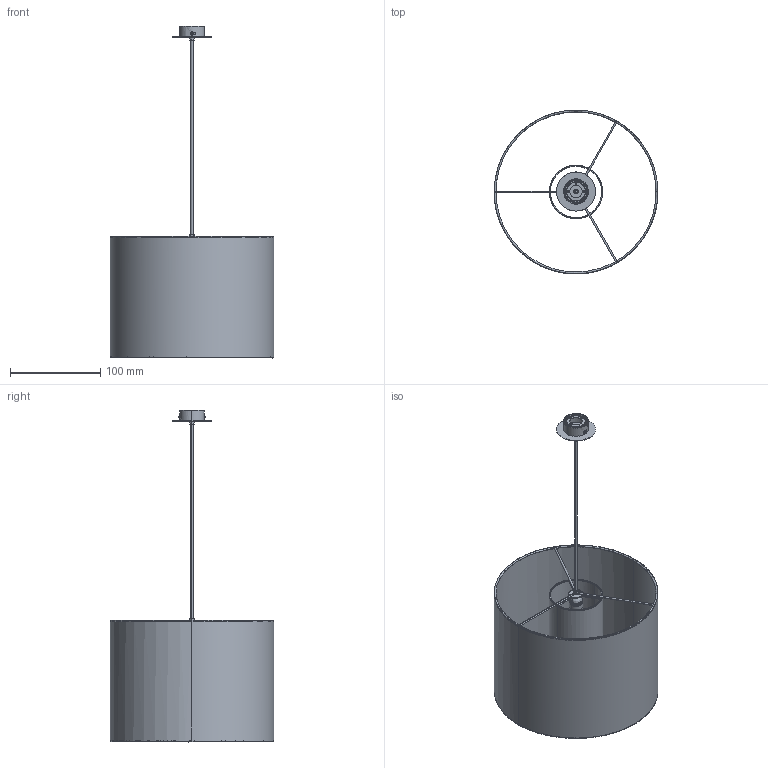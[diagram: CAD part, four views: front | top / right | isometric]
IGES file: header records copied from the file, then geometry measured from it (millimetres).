
Global section: file name: Moaré Liviana M,; native system: Unknown; preprocessor: BodyObjectToATFToIges; author: Autodesk 3ds Max; organization: Autodesk; date: 20180117.174728; units: centimetre
Bounding box: 181.1 x 181.1 x 367.39 mm (x, y, z)
Volume: 25541.3 mm3; surface area: 206897.9 mm2
Topology: 24 solids, 24 shells, 550 faces, 1402 edges, 881 vertices
Faces by surface type: bspline 546, revolution 4
